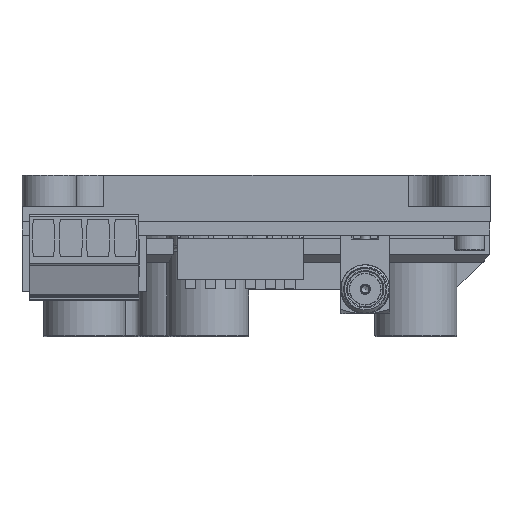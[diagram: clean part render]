
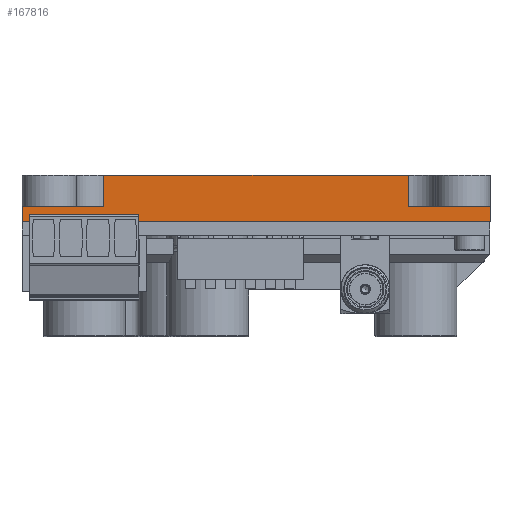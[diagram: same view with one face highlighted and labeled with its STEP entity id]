
A CAD part, left-side view. The second image highlights one B-rep face of the part: STEP entity #167816.
In plain terms, the highlighted planar face has unit normal (-1, 0, 0).
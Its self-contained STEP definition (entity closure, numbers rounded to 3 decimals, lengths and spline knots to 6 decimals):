
#53609=ORIENTED_EDGE('',*,*,#75958,.F.);
#53610=ORIENTED_EDGE('',*,*,#75959,.T.);
#53611=ORIENTED_EDGE('',*,*,#75960,.F.);
#53612=ORIENTED_EDGE('',*,*,#75961,.F.);
#53613=ORIENTED_EDGE('',*,*,#75962,.T.);
#53614=ORIENTED_EDGE('',*,*,#75963,.T.);
#53615=ORIENTED_EDGE('',*,*,#75964,.T.);
#53616=ORIENTED_EDGE('',*,*,#75965,.T.);
#75958=EDGE_CURVE('',#90614,#90615,#109734,.T.);
#75959=EDGE_CURVE('',#90614,#90616,#109735,.T.);
#75960=EDGE_CURVE('',#90617,#90616,#109736,.T.);
#75961=EDGE_CURVE('',#90618,#90617,#109737,.T.);
#75962=EDGE_CURVE('',#90618,#90619,#109738,.T.);
#75963=EDGE_CURVE('',#90619,#90620,#109739,.T.);
#75964=EDGE_CURVE('',#90620,#90621,#109740,.T.);
#75965=EDGE_CURVE('',#90621,#90615,#109741,.T.);
#90614=VERTEX_POINT('',#290239);
#90615=VERTEX_POINT('',#290240);
#90616=VERTEX_POINT('',#290242);
#90617=VERTEX_POINT('',#290244);
#90618=VERTEX_POINT('',#290246);
#90619=VERTEX_POINT('',#290248);
#90620=VERTEX_POINT('',#290250);
#90621=VERTEX_POINT('',#290252);
#109734=LINE('',#290238,#128814);
#109735=LINE('',#290241,#128815);
#109736=LINE('',#290243,#128816);
#109737=LINE('',#290245,#128817);
#109738=LINE('',#290247,#128818);
#109739=LINE('',#290249,#128819);
#109740=LINE('',#290251,#128820);
#109741=LINE('',#290253,#128821);
#128814=VECTOR('',#238946,1.);
#128815=VECTOR('',#238947,1.);
#128816=VECTOR('',#238948,1.);
#128817=VECTOR('',#238949,1.);
#128818=VECTOR('',#238950,1.);
#128819=VECTOR('',#238951,1.);
#128820=VECTOR('',#238952,1.);
#128821=VECTOR('',#238953,1.);
#139256=EDGE_LOOP('',(#53609,#53610,#53611,#53612,#53613,#53614,#53615,
#53616));
#149683=FACE_BOUND('',#139256,.T.);
#158115=PLANE('',#193871);
#167816=ADVANCED_FACE('',(#149683),#158115,.F.);
#193871=AXIS2_PLACEMENT_3D('',#290237,#238944,#238945);
#238944=DIRECTION('',(1.,0.,0.));
#238945=DIRECTION('',(0.,0.,-1.));
#238946=DIRECTION('',(0.,0.,-1.));
#238947=DIRECTION('',(0.,-1.,0.));
#238948=DIRECTION('',(0.,0.,-1.));
#238949=DIRECTION('',(0.,-1.,0.));
#238950=DIRECTION('',(0.,0.,-1.));
#238951=DIRECTION('',(0.,-1.,0.));
#238952=DIRECTION('',(0.,0.,-1.));
#238953=DIRECTION('',(0.,-1.,0.));
#290237=CARTESIAN_POINT('',(-0.0425,0.02075,0.006));
#290238=CARTESIAN_POINT('',(-0.0425,-0.0195,0.004));
#290239=CARTESIAN_POINT('',(-0.0425,-0.0195,0.004));
#290240=CARTESIAN_POINT('',(-0.0425,-0.0195,0.));
#290241=CARTESIAN_POINT('',(-0.0425,-0.026,0.004));
#290242=CARTESIAN_POINT('',(-0.0425,-0.03,0.004));
#290243=CARTESIAN_POINT('',(-0.0425,-0.03,0.006));
#290244=CARTESIAN_POINT('',(-0.0425,-0.03,0.006));
#290245=CARTESIAN_POINT('',(-0.0425,0.02075,0.006));
#290246=CARTESIAN_POINT('',(-0.0425,0.03,0.006));
#290247=CARTESIAN_POINT('',(-0.0425,0.03,0.006));
#290248=CARTESIAN_POINT('',(-0.0425,0.03,0.004));
#290249=CARTESIAN_POINT('',(-0.0425,0.026,0.004));
#290250=CARTESIAN_POINT('',(-0.0425,0.0195,0.004));
#290251=CARTESIAN_POINT('',(-0.0425,0.0195,0.004));
#290252=CARTESIAN_POINT('',(-0.0425,0.0195,0.));
#290253=CARTESIAN_POINT('',(-0.0425,0.02075,0.));
